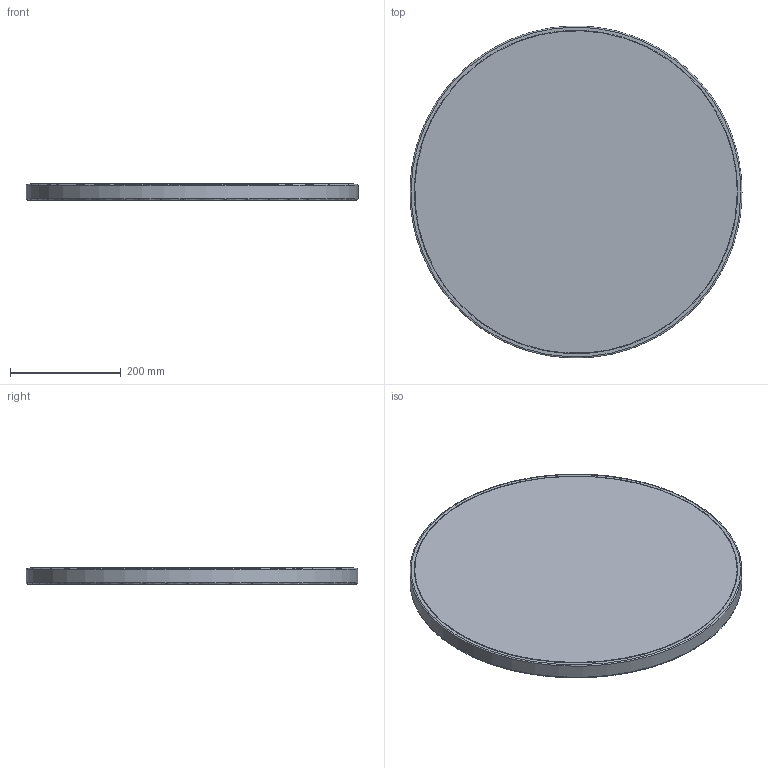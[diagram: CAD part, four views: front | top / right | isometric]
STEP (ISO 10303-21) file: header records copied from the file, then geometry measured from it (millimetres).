
FILE_DESCRIPTION(/* description */ (''),/* implementation_level */ '2;1');
FILE_NAME(/* name */ 'kinoshita_abord_tt008-Φ600',/* time_stamp */ '2024-07-30T14:46:50+09:00',/* author */ (''),/* organization */ (''),/* preprocessor_version */ 'ST-DEVELOPER v16.5',/* originating_system */ '',/* authorisation */ '');
FILE_SCHEMA (('AUTOMOTIVE_DESIGN'));
Length unit declared in the file: millimetre
Products named in the file (1): Document
Bounding box: 599.99 x 599.72 x 29 mm (x, y, z)
Volume: 8253524.4 mm3; surface area: 617410 mm2
Topology: 1 solids, 1 shells, 8 faces, 11 edges, 7 vertices
Faces by surface type: bspline 4, plane 4
Entity records: 291 total; most frequent: CARTESIAN_POINT 186, ORIENTED_EDGE 22, EDGE_CURVE 11, EDGE_LOOP 10, ADVANCED_FACE 8, FACE_OUTER_BOUND 8, DIRECTION 8, VERTEX_POINT 7
